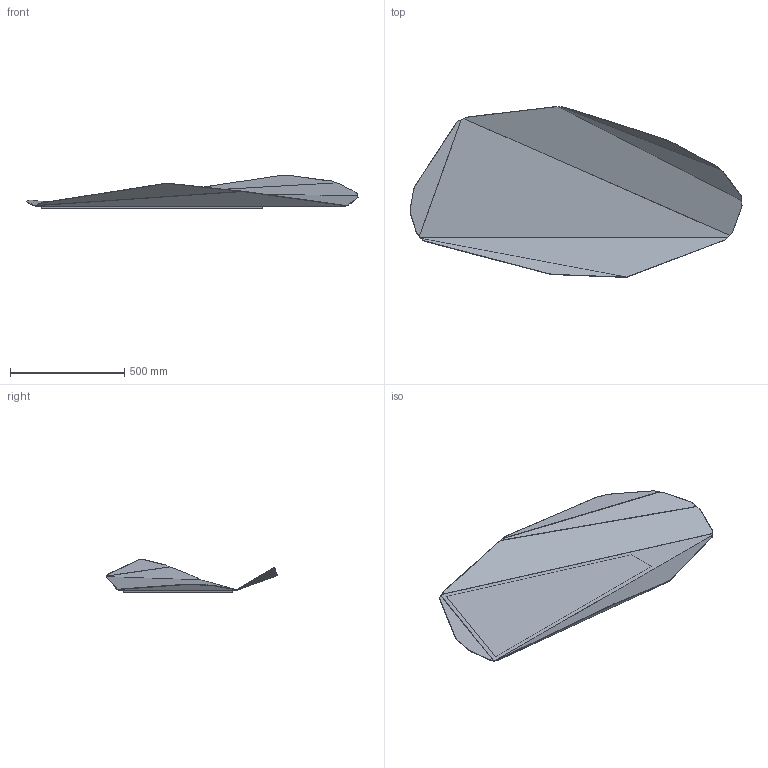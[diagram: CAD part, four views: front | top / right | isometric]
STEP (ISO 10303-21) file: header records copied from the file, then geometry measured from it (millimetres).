
FILE_DESCRIPTION(/* description */ (''),/* implementation_level */ '2;1');
FILE_NAME(/* name */ 'VW_Piega-Mirror_LARGE_3D_JS_20231110',/* time_stamp */ '2023-11-10T11:32:11+01:00',/* author */ (''),/* organization */ (''),/* preprocessor_version */ 'ST-DEVELOPER v16.5',/* originating_system */ 'Rhino 7.34',/* authorisation */ '');
FILE_SCHEMA (('CONFIG_CONTROL_DESIGN'));
Length unit declared in the file: millimetre
Products named in the file (1): Document
Bounding box: 1454.93 x 748.37 x 143.75 mm (x, y, z)
Volume: 2809603.5 mm3; surface area: 2183392.3 mm2
Topology: 1 solids, 91 shells, 96 faces, 231 edges, 227 vertices
Faces by surface type: plane 51, cylinder 33, bspline 12
Entity records: 3161 total; most frequent: CARTESIAN_POINT 1433, ORIENTED_EDGE 243, EDGE_CURVE 231, VERTEX_POINT 227, B_SPLINE_CURVE_WITH_KNOTS 198, ADVANCED_FACE 96, FACE_OUTER_BOUND 96, EDGE_LOOP 96
